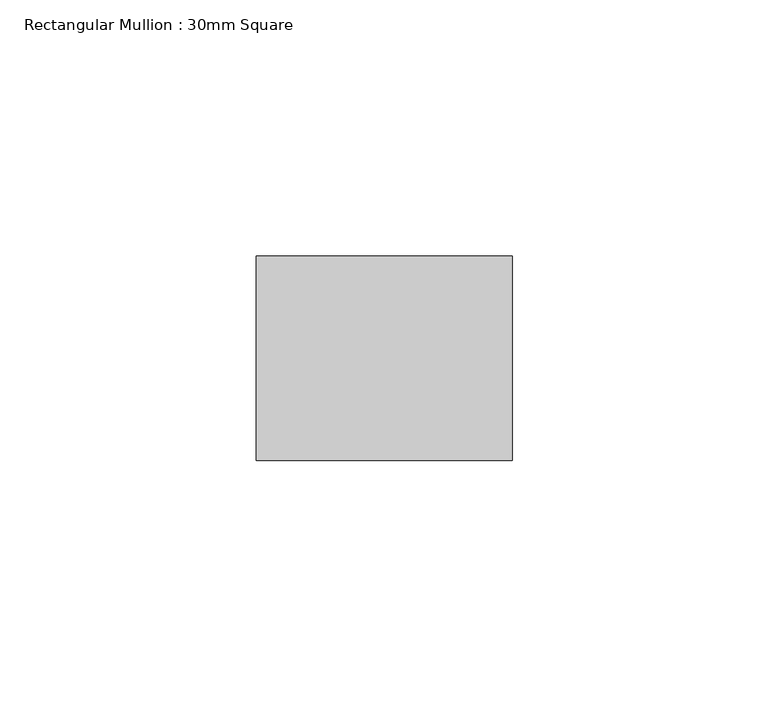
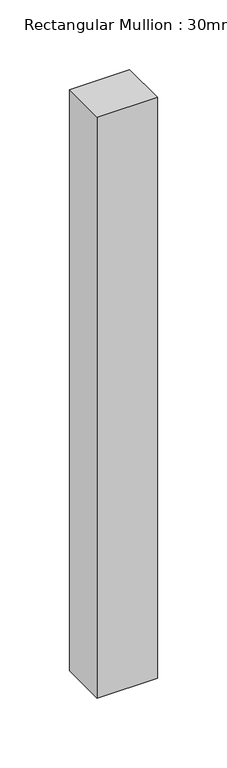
"""IFC4 building model written with IfcOpenShell, lengths in millimetres: member geometry, Rectangular Mullion : 30mm Square."""

from ifc_helpers import new_model, si_unit, frame, origin, place, context, project, spatial, polyline, outline, extrude, source, transform, mapped, element, save


def rectangular_mullion_30mm_square_9b7f0ff9(model_context):
    return source(origin(), model_context, "Body", "SweptSolid", [
        extrude(outline(polyline([(0.0, 20.0), (0.0, -20.0), (-50.0, -20.0), (-50.0, 20.0), (0.0, 20.0)])), frame((0.0, 0.0, -510.0), z_axis=(0.0, 0.0, 1.0), x_axis=(1.0, 0.0, 0.0)), (0.0, 0.0, 1.0), 510.0),
    ])


if __name__ == "__main__":
    model = new_model("IFC4")
    model_context = context("Model", 3, world=origin())
    ifc_project = project(units=[si_unit("LENGTHUNIT", "METRE", prefix="MILLI")], contexts=[model_context])
    site = spatial("IfcSite", under=ifc_project)
    building = spatial("IfcBuilding", under=site)
    placement = place(None, origin())
    rectangular_mullion_30mm_square_shape = rectangular_mullion_30mm_square_9b7f0ff9(model_context)
    element("IfcMember", 1, ObjectType="Rectangular Mullion : 30mm Square", at=placement, inside=building, context=model_context, shape_type="MappedRepresentation", body=[
        mapped(rectangular_mullion_30mm_square_shape, transform((0.0, 0.0, 0.0), x_axis=(1.0, 0.0, 0.0), y_axis=(0.0, 1.0, 0.0), z_axis=(0.0, 0.0, 1.0))),
    ])
    save(model, "model.ifc")
